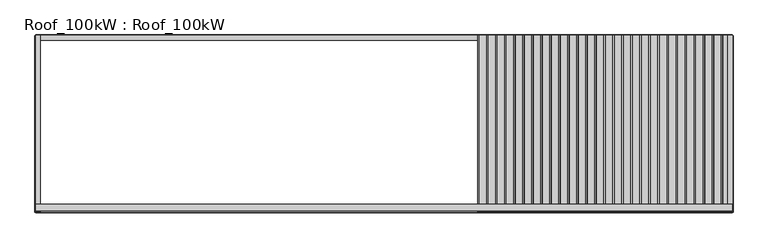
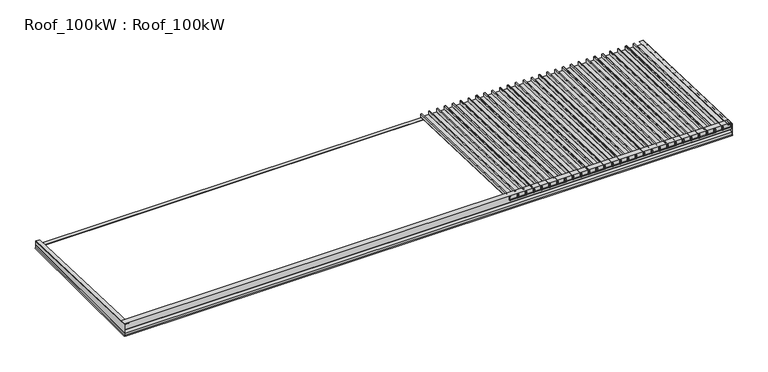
"""IFC4 building model written with IfcOpenShell, lengths in millimetres: beam geometry, Roof_100kW : Roof_100kW."""

from ifc_helpers import new_model, si_unit, frame, origin, place, context, project, spatial, polyline, outline, extrude, faceted_brep, source, transform, mapped, element, save


def roof_100kw_roof_100kw_d4473de0(model_context):
    return source(origin(), model_context, "Body", "SolidModel", [
        extrude(outline(polyline([(3464.5525967, 3397.5851728), (3464.5525967, 3395.3087926), (-14.9618868, 3516.8161158), (-14.9618868, 3517.79167), (3464.5525967, 3397.5851728)])), frame((-6859.75, 0.0, 0.0), z_axis=(1.0, 0.0, 0.0), x_axis=(0.0, 1.0, 0.0)), (0.0, 0.0, 1.0), 91.0),
        extrude(outline(polyline([(3464.5525967, 3397.5851728), (3464.5525967, 3395.3087926), (-14.9618868, 3516.8161158), (-14.9618868, 3517.79167), (3464.5525967, 3397.5851728)])), frame((6768.75, 0.0, 0.0), z_axis=(1.0, 0.0, 0.0), x_axis=(0.0, 1.0, 0.0)), (0.0, 0.0, 1.0), 91.0),
        extrude(outline(polyline([(3460.6079515, 3284.625316), (-23.1337581, 3282.8043375), (-14.9278607, 3517.7904945), (3464.5525967, 3397.5851728), (3460.6079515, 3284.625316)])), frame((-6859.75, 0.0, 0.0), z_axis=(1.0, 0.0, 0.0), x_axis=(0.0, 1.0, 0.0)), (0.0, 0.0, 1.0), 2.0),
        extrude(outline(polyline([(3460.6079515, 3284.625316), (-23.1337581, 3282.8043375), (-14.9278607, 3517.7904945), (3464.5525967, 3397.5851728), (3460.6079515, 3284.625316)])), frame((6857.75, 0.0, 0.0), z_axis=(1.0, 0.0, 0.0), x_axis=(0.0, 1.0, 0.0)), (0.0, 0.0, 1.0), 2.0),
        extrude(outline(polyline([(3236.0000001, -6871.0855383), (3260.999998, -6859.4255305), (3310.9999984, -6859.4255305), (3310.9999984, -6857.1867954), (3313.30614, -6857.1867954), (3313.30614, -6861.7975332), (3261.5259561, -6861.7975332), (3237.0026131, -6873.2352254), (3236.0000001, -6871.0855383)])), frame((0.0, -19.1564164, 0.0), z_axis=(0.0, 1.0, 0.0), x_axis=(0.0, 0.0, 1.0)), (0.0, 0.0, 1.0), 3474.9972752),
        extrude(outline(polyline([(3236.0000001, 6868.1128673), (3237.0026131, 6870.2625544), (3261.5259561, 6858.8248623), (3313.30614, 6858.8248623), (3313.30614, 6854.2141244), (3310.9999984, 6854.2141244), (3310.9999984, 6856.4528595), (3260.999998, 6856.4528595), (3236.0000001, 6868.1128673)])), frame((0.0, -19.1564164, 0.0), z_axis=(0.0, 1.0, 0.0), x_axis=(0.0, 0.0, 1.0)), (0.0, 0.0, 1.0), 3474.9972752),
        extrude(outline(polyline([(-30.8164164, 3236.0), (-32.9660812, 3237.0026014), (-21.5284164, 3261.525951), (-21.5284164, 3313.3621913), (69.2875959, 3313.3621913), (69.2875959, 3310.9999984), (-19.1564113, 3310.9999984), (-19.1564164, 3261.0), (-30.8164164, 3236.0)])), frame((-6856.0, 0.0, 0.0), z_axis=(1.0, 0.0, 0.0), x_axis=(0.0, 1.0, 0.0)), (0.0, 0.0, 1.0), 13712.0),
        extrude(outline(polyline([(3467.5008598, 3236.0), (3455.8408598, 3261.0), (3455.8408547, 3310.9999984), (3367.3968475, 3310.9999984), (3367.3968475, 3313.3621913), (3458.2128598, 3313.3621913), (3458.2128598, 3261.525951), (3469.6505246, 3237.0026014), (3467.5008598, 3236.0)])), frame((-6856.0, 0.0, 0.0), z_axis=(1.0, 0.0, 0.0), x_axis=(0.0, 1.0, 0.0)), (0.0, 0.0, 1.0), 13712.0),
        extrude(outline(polyline([(11.7511385, 3366.1429929), (11.7511385, 3519.2429929), (138.0741391, 3514.8316965), (138.0741391, 3513.5542884), (13.1502857, 3517.9167255), (13.1502857, 3366.1429929), (11.7511385, 3366.1429929)])), frame((-6856.0, 0.0, 0.0), z_axis=(1.0, 0.0, 0.0), x_axis=(0.0, 1.0, 0.0)), (0.0, 0.0, 1.0), 13712.0),
        faceted_brep([(6838.4239883, -12.227048, 3512.7230441), (6838.4239883, -12.227048, 3436.7693421), (6637.1239883, -12.227048, 3436.7693421), (6637.1239883, -12.227048, 3514.7218308), (6658.1239965, -12.227048, 3514.7218308), (6658.1239965, -12.227048, 3516.7206085), (6635.1239832, -12.227048, 3516.7206085), (6635.1239832, -12.227048, 3434.7705604), (6840.4239883, -12.227048, 3434.7705604), (6840.4239883, -12.227048, 3514.7218308), (6815.8239887, -12.227048, 3514.7218308), (6815.8239887, -12.227048, 3497.7321843), (6817.8239892, -12.227048, 3497.7321843), (6817.8239892, -12.227048, 3512.7230441), (6838.4239883, 3464.453761, 3391.3146758), (6817.8239892, 3464.453761, 3391.3146758), (6817.8239892, 3464.453761, 3376.3238198), (6815.8239887, 3464.453761, 3376.3238198), (6815.8239887, 3464.453761, 3393.3134574), (6840.4239935, 3464.453761, 3393.3134574), (6840.4239935, 3464.453761, 3313.3621913), (6635.1239883, 3464.453761, 3313.3621913), (6635.1239883, 3464.453761, 3395.312244), (6658.1239883, 3464.453761, 3395.312244), (6658.1239883, 3464.453761, 3393.3134574), (6637.1239883, 3464.453761, 3393.3134574), (6637.1239883, 3464.453761, 3315.3609776), (6838.4239883, 3464.453761, 3315.3609776)], [[[0, 1, 2, 3, 4, 5, 6, 7, 8, 9, 10, 11, 12, 13]], [[14, 15, 16, 17, 18, 19, 20, 21, 22, 23, 24, 25, 26, 27]], [[14, 27, 1, 0]], [[27, 26, 2, 1]], [[26, 25, 3, 2]], [[25, 24, 4, 3]], [[24, 23, 5, 4]], [[23, 22, 6, 5]], [[22, 21, 7, 6]], [[21, 20, 8, 7]], [[20, 19, 9, 8]], [[19, 18, 10, 9]], [[18, 17, 11, 10]], [[17, 16, 12, 11]], [[16, 15, 13, 12]], [[15, 14, 0, 13]]]),
        faceted_brep([(6660.8072253, -12.227048, 3512.7230441), (6660.8072253, -12.227048, 3436.7693421), (6459.5072253, -12.227048, 3436.7693421), (6459.5072253, -12.227048, 3514.7218308), (6480.5072335, -12.227048, 3514.7218308), (6480.5072335, -12.227048, 3516.7206085), (6457.5072202, -12.227048, 3516.7206085), (6457.5072202, -12.227048, 3434.7705604), (6662.8072253, -12.227048, 3434.7705604), (6662.8072253, -12.227048, 3514.7218308), (6638.2072257, -12.227048, 3514.7218308), (6638.2072257, -12.227048, 3497.7321843), (6640.2072262, -12.227048, 3497.7321843), (6640.2072262, -12.227048, 3512.7230441), (6660.8072253, 3464.453761, 3391.3146758), (6640.2072262, 3464.453761, 3391.3146758), (6640.2072262, 3464.453761, 3376.3238198), (6638.2072257, 3464.453761, 3376.3238198), (6638.2072257, 3464.453761, 3393.3134574), (6662.8072305, 3464.453761, 3393.3134574), (6662.8072305, 3464.453761, 3313.3621913), (6457.5072253, 3464.453761, 3313.3621913), (6457.5072253, 3464.453761, 3395.312244), (6480.5072253, 3464.453761, 3395.312244), (6480.5072253, 3464.453761, 3393.3134574), (6459.5072253, 3464.453761, 3393.3134574), (6459.5072253, 3464.453761, 3315.3609776), (6660.8072253, 3464.453761, 3315.3609776)], [[[0, 1, 2, 3, 4, 5, 6, 7, 8, 9, 10, 11, 12, 13]], [[14, 15, 16, 17, 18, 19, 20, 21, 22, 23, 24, 25, 26, 27]], [[14, 27, 1, 0]], [[27, 26, 2, 1]], [[26, 25, 3, 2]], [[25, 24, 4, 3]], [[24, 23, 5, 4]], [[23, 22, 6, 5]], [[22, 21, 7, 6]], [[21, 20, 8, 7]], [[20, 19, 9, 8]], [[19, 18, 10, 9]], [[18, 17, 11, 10]], [[17, 16, 12, 11]], [[16, 15, 13, 12]], [[15, 14, 0, 13]]]),
        faceted_brep([(6483.1904623, -12.227048, 3512.7230441), (6483.1904623, -12.227048, 3436.7693421), (6281.8904623, -12.227048, 3436.7693421), (6281.8904623, -12.227048, 3514.7218308), (6302.8904705, -12.227048, 3514.7218308), (6302.8904705, -12.227048, 3516.7206085), (6279.8904572, -12.227048, 3516.7206085), (6279.8904572, -12.227048, 3434.7705604), (6485.1904623, -12.227048, 3434.7705604), (6485.1904623, -12.227048, 3514.7218308), (6460.5904627, -12.227048, 3514.7218308), (6460.5904627, -12.227048, 3497.7321843), (6462.5904632, -12.227048, 3497.7321843), (6462.5904632, -12.227048, 3512.7230441), (6483.1904623, 3464.453761, 3391.3146758), (6462.5904632, 3464.453761, 3391.3146758), (6462.5904632, 3464.453761, 3376.3238198), (6460.5904627, 3464.453761, 3376.3238198), (6460.5904627, 3464.453761, 3393.3134574), (6485.1904675, 3464.453761, 3393.3134574), (6485.1904675, 3464.453761, 3313.3621913), (6279.8904623, 3464.453761, 3313.3621913), (6279.8904623, 3464.453761, 3395.312244), (6302.8904623, 3464.453761, 3395.312244), (6302.8904623, 3464.453761, 3393.3134574), (6281.8904623, 3464.453761, 3393.3134574), (6281.8904623, 3464.453761, 3315.3609776), (6483.1904623, 3464.453761, 3315.3609776)], [[[0, 1, 2, 3, 4, 5, 6, 7, 8, 9, 10, 11, 12, 13]], [[14, 15, 16, 17, 18, 19, 20, 21, 22, 23, 24, 25, 26, 27]], [[14, 27, 1, 0]], [[27, 26, 2, 1]], [[26, 25, 3, 2]], [[25, 24, 4, 3]], [[24, 23, 5, 4]], [[23, 22, 6, 5]], [[22, 21, 7, 6]], [[21, 20, 8, 7]], [[20, 19, 9, 8]], [[19, 18, 10, 9]], [[18, 17, 11, 10]], [[17, 16, 12, 11]], [[16, 15, 13, 12]], [[15, 14, 0, 13]]]),
        faceted_brep([(6305.5736993, -12.227048, 3512.7230441), (6305.5736993, -12.227048, 3436.7693421), (6104.2736993, -12.227048, 3436.7693421), (6104.2736993, -12.227048, 3514.7218308), (6125.2737075, -12.227048, 3514.7218308), (6125.2737075, -12.227048, 3516.7206085), (6102.2736942, -12.227048, 3516.7206085), (6102.2736942, -12.227048, 3434.7705604), (6307.5736993, -12.227048, 3434.7705604), (6307.5736993, -12.227048, 3514.7218308), (6282.9736997, -12.227048, 3514.7218308), (6282.9736997, -12.227048, 3497.7321843), (6284.9737002, -12.227048, 3497.7321843), (6284.9737002, -12.227048, 3512.7230441), (6305.5736993, 3464.453761, 3391.3146758), (6284.9737002, 3464.453761, 3391.3146758), (6284.9737002, 3464.453761, 3376.3238198), (6282.9736997, 3464.453761, 3376.3238198), (6282.9736997, 3464.453761, 3393.3134574), (6307.5737045, 3464.453761, 3393.3134574), (6307.5737045, 3464.453761, 3313.3621913), (6102.2736993, 3464.453761, 3313.3621913), (6102.2736993, 3464.453761, 3395.312244), (6125.2736993, 3464.453761, 3395.312244), (6125.2736993, 3464.453761, 3393.3134574), (6104.2736993, 3464.453761, 3393.3134574), (6104.2736993, 3464.453761, 3315.3609776), (6305.5736993, 3464.453761, 3315.3609776)], [[[0, 1, 2, 3, 4, 5, 6, 7, 8, 9, 10, 11, 12, 13]], [[14, 15, 16, 17, 18, 19, 20, 21, 22, 23, 24, 25, 26, 27]], [[14, 27, 1, 0]], [[27, 26, 2, 1]], [[26, 25, 3, 2]], [[25, 24, 4, 3]], [[24, 23, 5, 4]], [[23, 22, 6, 5]], [[22, 21, 7, 6]], [[21, 20, 8, 7]], [[20, 19, 9, 8]], [[19, 18, 10, 9]], [[18, 17, 11, 10]], [[17, 16, 12, 11]], [[16, 15, 13, 12]], [[15, 14, 0, 13]]]),
        faceted_brep([(6127.9569363, -12.227048, 3512.7230441), (6127.9569363, -12.227048, 3436.7693421), (5926.6569363, -12.227048, 3436.7693421), (5926.6569363, -12.227048, 3514.7218308), (5947.6569445, -12.227048, 3514.7218308), (5947.6569445, -12.227048, 3516.7206085), (5924.6569312, -12.227048, 3516.7206085), (5924.6569312, -12.227048, 3434.7705604), (6129.9569363, -12.227048, 3434.7705604), (6129.9569363, -12.227048, 3514.7218308), (6105.3569367, -12.227048, 3514.7218308), (6105.3569367, -12.227048, 3497.7321843), (6107.3569372, -12.227048, 3497.7321843), (6107.3569372, -12.227048, 3512.7230441), (6127.9569363, 3464.453761, 3391.3146758), (6107.3569372, 3464.453761, 3391.3146758), (6107.3569372, 3464.453761, 3376.3238198), (6105.3569367, 3464.453761, 3376.3238198), (6105.3569367, 3464.453761, 3393.3134574), (6129.9569415, 3464.453761, 3393.3134574), (6129.9569415, 3464.453761, 3313.3621913), (5924.6569363, 3464.453761, 3313.3621913), (5924.6569363, 3464.453761, 3395.312244), (5947.6569363, 3464.453761, 3395.312244), (5947.6569363, 3464.453761, 3393.3134574), (5926.6569363, 3464.453761, 3393.3134574), (5926.6569363, 3464.453761, 3315.3609776), (6127.9569363, 3464.453761, 3315.3609776)], [[[0, 1, 2, 3, 4, 5, 6, 7, 8, 9, 10, 11, 12, 13]], [[14, 15, 16, 17, 18, 19, 20, 21, 22, 23, 24, 25, 26, 27]], [[14, 27, 1, 0]], [[27, 26, 2, 1]], [[26, 25, 3, 2]], [[25, 24, 4, 3]], [[24, 23, 5, 4]], [[23, 22, 6, 5]], [[22, 21, 7, 6]], [[21, 20, 8, 7]], [[20, 19, 9, 8]], [[19, 18, 10, 9]], [[18, 17, 11, 10]], [[17, 16, 12, 11]], [[16, 15, 13, 12]], [[15, 14, 0, 13]]]),
        faceted_brep([(5950.3401733, -12.227048, 3512.7230441), (5950.3401733, -12.227048, 3436.7693421), (5749.0401733, -12.227048, 3436.7693421), (5749.0401733, -12.227048, 3514.7218308), (5770.0401815, -12.227048, 3514.7218308), (5770.0401815, -12.227048, 3516.7206085), (5747.0401682, -12.227048, 3516.7206085), (5747.0401682, -12.227048, 3434.7705604), (5952.3401733, -12.227048, 3434.7705604), (5952.3401733, -12.227048, 3514.7218308), (5927.7401736, -12.227048, 3514.7218308), (5927.7401736, -12.227048, 3497.7321843), (5929.7401742, -12.227048, 3497.7321843), (5929.7401742, -12.227048, 3512.7230441), (5950.3401733, 3464.453761, 3391.3146758), (5929.7401742, 3464.453761, 3391.3146758), (5929.7401742, 3464.453761, 3376.3238198), (5927.7401736, 3464.453761, 3376.3238198), (5927.7401736, 3464.453761, 3393.3134574), (5952.3401785, 3464.453761, 3393.3134574), (5952.3401785, 3464.453761, 3313.3621913), (5747.0401733, 3464.453761, 3313.3621913), (5747.0401733, 3464.453761, 3395.312244), (5770.0401733, 3464.453761, 3395.312244), (5770.0401733, 3464.453761, 3393.3134574), (5749.0401733, 3464.453761, 3393.3134574), (5749.0401733, 3464.453761, 3315.3609776), (5950.3401733, 3464.453761, 3315.3609776)], [[[0, 1, 2, 3, 4, 5, 6, 7, 8, 9, 10, 11, 12, 13]], [[14, 15, 16, 17, 18, 19, 20, 21, 22, 23, 24, 25, 26, 27]], [[14, 27, 1, 0]], [[27, 26, 2, 1]], [[26, 25, 3, 2]], [[25, 24, 4, 3]], [[24, 23, 5, 4]], [[23, 22, 6, 5]], [[22, 21, 7, 6]], [[21, 20, 8, 7]], [[20, 19, 9, 8]], [[19, 18, 10, 9]], [[18, 17, 11, 10]], [[17, 16, 12, 11]], [[16, 15, 13, 12]], [[15, 14, 0, 13]]]),
        faceted_brep([(5772.7234103, -12.227048, 3512.7230441), (5772.7234103, -12.227048, 3436.7693421), (5571.4234103, -12.227048, 3436.7693421), (5571.4234103, -12.227048, 3514.7218308), (5592.4234185, -12.227048, 3514.7218308), (5592.4234185, -12.227048, 3516.7206085), (5569.4234052, -12.227048, 3516.7206085), (5569.4234052, -12.227048, 3434.7705604), (5774.7234103, -12.227048, 3434.7705604), (5774.7234103, -12.227048, 3514.7218308), (5750.1234106, -12.227048, 3514.7218308), (5750.1234106, -12.227048, 3497.7321843), (5752.1234112, -12.227048, 3497.7321843), (5752.1234112, -12.227048, 3512.7230441), (5772.7234103, 3464.453761, 3391.3146758), (5752.1234112, 3464.453761, 3391.3146758), (5752.1234112, 3464.453761, 3376.3238198), (5750.1234106, 3464.453761, 3376.3238198), (5750.1234106, 3464.453761, 3393.3134574), (5774.7234155, 3464.453761, 3393.3134574), (5774.7234155, 3464.453761, 3313.3621913), (5569.4234103, 3464.453761, 3313.3621913), (5569.4234103, 3464.453761, 3395.312244), (5592.4234103, 3464.453761, 3395.312244), (5592.4234103, 3464.453761, 3393.3134574), (5571.4234103, 3464.453761, 3393.3134574), (5571.4234103, 3464.453761, 3315.3609776), (5772.7234103, 3464.453761, 3315.3609776)], [[[0, 1, 2, 3, 4, 5, 6, 7, 8, 9, 10, 11, 12, 13]], [[14, 15, 16, 17, 18, 19, 20, 21, 22, 23, 24, 25, 26, 27]], [[14, 27, 1, 0]], [[27, 26, 2, 1]], [[26, 25, 3, 2]], [[25, 24, 4, 3]], [[24, 23, 5, 4]], [[23, 22, 6, 5]], [[22, 21, 7, 6]], [[21, 20, 8, 7]], [[20, 19, 9, 8]], [[19, 18, 10, 9]], [[18, 17, 11, 10]], [[17, 16, 12, 11]], [[16, 15, 13, 12]], [[15, 14, 0, 13]]]),
        faceted_brep([(5595.1066473, -12.227048, 3512.7230441), (5595.1066473, -12.227048, 3436.7693421), (5393.8066473, -12.227048, 3436.7693421), (5393.8066473, -12.227048, 3514.7218308), (5414.8066555, -12.227048, 3514.7218308), (5414.8066555, -12.227048, 3516.7206085), (5391.8066422, -12.227048, 3516.7206085), (5391.8066422, -12.227048, 3434.7705604), (5597.1066473, -12.227048, 3434.7705604), (5597.1066473, -12.227048, 3514.7218308), (5572.5066476, -12.227048, 3514.7218308), (5572.5066476, -12.227048, 3497.7321843), (5574.5066482, -12.227048, 3497.7321843), (5574.5066482, -12.227048, 3512.7230441), (5595.1066473, 3464.453761, 3391.3146758), (5574.5066482, 3464.453761, 3391.3146758), (5574.5066482, 3464.453761, 3376.3238198), (5572.5066476, 3464.453761, 3376.3238198), (5572.5066476, 3464.453761, 3393.3134574), (5597.1066525, 3464.453761, 3393.3134574), (5597.1066525, 3464.453761, 3313.3621913), (5391.8066473, 3464.453761, 3313.3621913), (5391.8066473, 3464.453761, 3395.312244), (5414.8066473, 3464.453761, 3395.312244), (5414.8066473, 3464.453761, 3393.3134574), (5393.8066473, 3464.453761, 3393.3134574), (5393.8066473, 3464.453761, 3315.3609776), (5595.1066473, 3464.453761, 3315.3609776)], [[[0, 1, 2, 3, 4, 5, 6, 7, 8, 9, 10, 11, 12, 13]], [[14, 15, 16, 17, 18, 19, 20, 21, 22, 23, 24, 25, 26, 27]], [[14, 27, 1, 0]], [[27, 26, 2, 1]], [[26, 25, 3, 2]], [[25, 24, 4, 3]], [[24, 23, 5, 4]], [[23, 22, 6, 5]], [[22, 21, 7, 6]], [[21, 20, 8, 7]], [[20, 19, 9, 8]], [[19, 18, 10, 9]], [[18, 17, 11, 10]], [[17, 16, 12, 11]], [[16, 15, 13, 12]], [[15, 14, 0, 13]]]),
        faceted_brep([(5417.4898843, -12.227048, 3512.7230441), (5417.4898843, -12.227048, 3436.7693421), (5216.1898843, -12.227048, 3436.7693421), (5216.1898843, -12.227048, 3514.7218308), (5237.1898925, -12.227048, 3514.7218308), (5237.1898925, -12.227048, 3516.7206085), (5214.1898792, -12.227048, 3516.7206085), (5214.1898792, -12.227048, 3434.7705604), (5419.4898843, -12.227048, 3434.7705604), (5419.4898843, -12.227048, 3514.7218308), (5394.8898846, -12.227048, 3514.7218308), (5394.8898846, -12.227048, 3497.7321843), (5396.8898852, -12.227048, 3497.7321843), (5396.8898852, -12.227048, 3512.7230441), (5417.4898843, 3464.453761, 3391.3146758), (5396.8898852, 3464.453761, 3391.3146758), (5396.8898852, 3464.453761, 3376.3238198), (5394.8898846, 3464.453761, 3376.3238198), (5394.8898846, 3464.453761, 3393.3134574), (5419.4898895, 3464.453761, 3393.3134574), (5419.4898895, 3464.453761, 3313.3621913), (5214.1898843, 3464.453761, 3313.3621913), (5214.1898843, 3464.453761, 3395.312244), (5237.1898843, 3464.453761, 3395.312244), (5237.1898843, 3464.453761, 3393.3134574), (5216.1898843, 3464.453761, 3393.3134574), (5216.1898843, 3464.453761, 3315.3609776), (5417.4898843, 3464.453761, 3315.3609776)], [[[0, 1, 2, 3, 4, 5, 6, 7, 8, 9, 10, 11, 12, 13]], [[14, 15, 16, 17, 18, 19, 20, 21, 22, 23, 24, 25, 26, 27]], [[14, 27, 1, 0]], [[27, 26, 2, 1]], [[26, 25, 3, 2]], [[25, 24, 4, 3]], [[24, 23, 5, 4]], [[23, 22, 6, 5]], [[22, 21, 7, 6]], [[21, 20, 8, 7]], [[20, 19, 9, 8]], [[19, 18, 10, 9]], [[18, 17, 11, 10]], [[17, 16, 12, 11]], [[16, 15, 13, 12]], [[15, 14, 0, 13]]]),
        faceted_brep([(5239.8731213, -12.227048, 3512.7230441), (5239.8731213, -12.227048, 3436.7693421), (5038.5731213, -12.227048, 3436.7693421), (5038.5731213, -12.227048, 3514.7218308), (5059.5731295, -12.227048, 3514.7218308), (5059.5731295, -12.227048, 3516.7206085), (5036.5731162, -12.227048, 3516.7206085), (5036.5731162, -12.227048, 3434.7705604), (5241.8731213, -12.227048, 3434.7705604), (5241.8731213, -12.227048, 3514.7218308), (5217.2731216, -12.227048, 3514.7218308), (5217.2731216, -12.227048, 3497.7321843), (5219.2731222, -12.227048, 3497.7321843), (5219.2731222, -12.227048, 3512.7230441), (5239.8731213, 3464.453761, 3391.3146758), (5219.2731222, 3464.453761, 3391.3146758), (5219.2731222, 3464.453761, 3376.3238198), (5217.2731216, 3464.453761, 3376.3238198), (5217.2731216, 3464.453761, 3393.3134574), (5241.8731265, 3464.453761, 3393.3134574), (5241.8731265, 3464.453761, 3313.3621913), (5036.5731213, 3464.453761, 3313.3621913), (5036.5731213, 3464.453761, 3395.312244), (5059.5731213, 3464.453761, 3395.312244), (5059.5731213, 3464.453761, 3393.3134574), (5038.5731213, 3464.453761, 3393.3134574), (5038.5731213, 3464.453761, 3315.3609776), (5239.8731213, 3464.453761, 3315.3609776)], [[[0, 1, 2, 3, 4, 5, 6, 7, 8, 9, 10, 11, 12, 13]], [[14, 15, 16, 17, 18, 19, 20, 21, 22, 23, 24, 25, 26, 27]], [[14, 27, 1, 0]], [[27, 26, 2, 1]], [[26, 25, 3, 2]], [[25, 24, 4, 3]], [[24, 23, 5, 4]], [[23, 22, 6, 5]], [[22, 21, 7, 6]], [[21, 20, 8, 7]], [[20, 19, 9, 8]], [[19, 18, 10, 9]], [[18, 17, 11, 10]], [[17, 16, 12, 11]], [[16, 15, 13, 12]], [[15, 14, 0, 13]]]),
        faceted_brep([(5062.2563583, -12.227048, 3512.7230441), (5062.2563583, -12.227048, 3436.7693421), (4860.9563583, -12.227048, 3436.7693421), (4860.9563583, -12.227048, 3514.7218308), (4881.9563665, -12.227048, 3514.7218308), (4881.9563665, -12.227048, 3516.7206085), (4858.9563532, -12.227048, 3516.7206085), (4858.9563532, -12.227048, 3434.7705604), (5064.2563583, -12.227048, 3434.7705604), (5064.2563583, -12.227048, 3514.7218308), (5039.6563586, -12.227048, 3514.7218308), (5039.6563586, -12.227048, 3497.7321843), (5041.6563592, -12.227048, 3497.7321843), (5041.6563592, -12.227048, 3512.7230441), (5062.2563583, 3464.453761, 3391.3146758), (5041.6563592, 3464.453761, 3391.3146758), (5041.6563592, 3464.453761, 3376.3238198), (5039.6563586, 3464.453761, 3376.3238198), (5039.6563586, 3464.453761, 3393.3134574), (5064.2563635, 3464.453761, 3393.3134574), (5064.2563635, 3464.453761, 3313.3621913), (4858.9563583, 3464.453761, 3313.3621913), (4858.9563583, 3464.453761, 3395.312244), (4881.9563583, 3464.453761, 3395.312244), (4881.9563583, 3464.453761, 3393.3134574), (4860.9563583, 3464.453761, 3393.3134574), (4860.9563583, 3464.453761, 3315.3609776), (5062.2563583, 3464.453761, 3315.3609776)], [[[0, 1, 2, 3, 4, 5, 6, 7, 8, 9, 10, 11, 12, 13]], [[14, 15, 16, 17, 18, 19, 20, 21, 22, 23, 24, 25, 26, 27]], [[14, 27, 1, 0]], [[27, 26, 2, 1]], [[26, 25, 3, 2]], [[25, 24, 4, 3]], [[24, 23, 5, 4]], [[23, 22, 6, 5]], [[22, 21, 7, 6]], [[21, 20, 8, 7]], [[20, 19, 9, 8]], [[19, 18, 10, 9]], [[18, 17, 11, 10]], [[17, 16, 12, 11]], [[16, 15, 13, 12]], [[15, 14, 0, 13]]]),
        faceted_brep([(4884.6395953, -12.227048, 3512.7230441), (4884.6395953, -12.227048, 3436.7693421), (4683.3395953, -12.227048, 3436.7693421), (4683.3395953, -12.227048, 3514.7218308), (4704.3396035, -12.227048, 3514.7218308), (4704.3396035, -12.227048, 3516.7206085), (4681.3395902, -12.227048, 3516.7206085), (4681.3395902, -12.227048, 3434.7705604), (4886.6395953, -12.227048, 3434.7705604), (4886.6395953, -12.227048, 3514.7218308), (4862.0395956, -12.227048, 3514.7218308), (4862.0395956, -12.227048, 3497.7321843), (4864.0395962, -12.227048, 3497.7321843), (4864.0395962, -12.227048, 3512.7230441), (4884.6395953, 3464.453761, 3391.3146758), (4864.0395962, 3464.453761, 3391.3146758), (4864.0395962, 3464.453761, 3376.3238198), (4862.0395956, 3464.453761, 3376.3238198), (4862.0395956, 3464.453761, 3393.3134574), (4886.6396005, 3464.453761, 3393.3134574), (4886.6396005, 3464.453761, 3313.3621913), (4681.3395953, 3464.453761, 3313.3621913), (4681.3395953, 3464.453761, 3395.312244), (4704.3395953, 3464.453761, 3395.312244), (4704.3395953, 3464.453761, 3393.3134574), (4683.3395953, 3464.453761, 3393.3134574), (4683.3395953, 3464.453761, 3315.3609776), (4884.6395953, 3464.453761, 3315.3609776)], [[[0, 1, 2, 3, 4, 5, 6, 7, 8, 9, 10, 11, 12, 13]], [[14, 15, 16, 17, 18, 19, 20, 21, 22, 23, 24, 25, 26, 27]], [[14, 27, 1, 0]], [[27, 26, 2, 1]], [[26, 25, 3, 2]], [[25, 24, 4, 3]], [[24, 23, 5, 4]], [[23, 22, 6, 5]], [[22, 21, 7, 6]], [[21, 20, 8, 7]], [[20, 19, 9, 8]], [[19, 18, 10, 9]], [[18, 17, 11, 10]], [[17, 16, 12, 11]], [[16, 15, 13, 12]], [[15, 14, 0, 13]]]),
        faceted_brep([(4707.0228323, -12.227048, 3512.7230441), (4707.0228323, -12.227048, 3436.7693421), (4505.7228323, -12.227048, 3436.7693421), (4505.7228323, -12.227048, 3514.7218308), (4526.7228404, -12.227048, 3514.7218308), (4526.7228404, -12.227048, 3516.7206085), (4503.7228272, -12.227048, 3516.7206085), (4503.7228272, -12.227048, 3434.7705604), (4709.0228322, -12.227048, 3434.7705604), (4709.0228322, -12.227048, 3514.7218308), (4684.4228326, -12.227048, 3514.7218308), (4684.4228326, -12.227048, 3497.7321843), (4686.4228332, -12.227048, 3497.7321843), (4686.4228332, -12.227048, 3512.7230441), (4707.0228322, 3464.453761, 3391.3146758), (4686.4228332, 3464.453761, 3391.3146758), (4686.4228332, 3464.453761, 3376.3238198), (4684.4228326, 3464.453761, 3376.3238198), (4684.4228326, 3464.453761, 3393.3134574), (4709.0228375, 3464.453761, 3393.3134574), (4709.0228375, 3464.453761, 3313.3621913), (4503.7228322, 3464.453761, 3313.3621913), (4503.7228322, 3464.453761, 3395.312244), (4526.7228322, 3464.453761, 3395.312244), (4526.7228322, 3464.453761, 3393.3134574), (4505.7228322, 3464.453761, 3393.3134574), (4505.7228322, 3464.453761, 3315.3609776), (4707.0228322, 3464.453761, 3315.3609776)], [[[0, 1, 2, 3, 4, 5, 6, 7, 8, 9, 10, 11, 12, 13]], [[14, 15, 16, 17, 18, 19, 20, 21, 22, 23, 24, 25, 26, 27]], [[14, 27, 1, 0]], [[27, 26, 2, 1]], [[26, 25, 3, 2]], [[25, 24, 4, 3]], [[24, 23, 5, 4]], [[23, 22, 6, 5]], [[22, 21, 7, 6]], [[21, 20, 8, 7]], [[20, 19, 9, 8]], [[19, 18, 10, 9]], [[18, 17, 11, 10]], [[17, 16, 12, 11]], [[16, 15, 13, 12]], [[15, 14, 0, 13]]]),
        faceted_brep([(4529.4060692, -12.227048, 3512.7230441), (4529.4060692, -12.227048, 3436.7693421), (4328.1060693, -12.227048, 3436.7693421), (4328.1060693, -12.227048, 3514.7218308), (4349.1060774, -12.227048, 3514.7218308), (4349.1060774, -12.227048, 3516.7206085), (4326.1060642, -12.227048, 3516.7206085), (4326.1060642, -12.227048, 3434.7705604), (4531.4060692, -12.227048, 3434.7705604), (4531.4060692, -12.227048, 3514.7218308), (4506.8060696, -12.227048, 3514.7218308), (4506.8060696, -12.227048, 3497.7321843), (4508.8060702, -12.227048, 3497.7321843), (4508.8060702, -12.227048, 3512.7230441), (4529.4060692, 3464.453761, 3391.3146758), (4508.8060702, 3464.453761, 3391.3146758), (4508.8060702, 3464.453761, 3376.3238198), (4506.8060696, 3464.453761, 3376.3238198), (4506.8060696, 3464.453761, 3393.3134574), (4531.4060745, 3464.453761, 3393.3134574), (4531.4060745, 3464.453761, 3313.3621913), (4326.1060692, 3464.453761, 3313.3621913), (4326.1060692, 3464.453761, 3395.312244), (4349.1060692, 3464.453761, 3395.312244), (4349.1060692, 3464.453761, 3393.3134574), (4328.1060692, 3464.453761, 3393.3134574), (4328.1060692, 3464.453761, 3315.3609776), (4529.4060692, 3464.453761, 3315.3609776)], [[[0, 1, 2, 3, 4, 5, 6, 7, 8, 9, 10, 11, 12, 13]], [[14, 15, 16, 17, 18, 19, 20, 21, 22, 23, 24, 25, 26, 27]], [[14, 27, 1, 0]], [[27, 26, 2, 1]], [[26, 25, 3, 2]], [[25, 24, 4, 3]], [[24, 23, 5, 4]], [[23, 22, 6, 5]], [[22, 21, 7, 6]], [[21, 20, 8, 7]], [[20, 19, 9, 8]], [[19, 18, 10, 9]], [[18, 17, 11, 10]], [[17, 16, 12, 11]], [[16, 15, 13, 12]], [[15, 14, 0, 13]]]),
        faceted_brep([(4351.7893062, -12.227048, 3512.7230441), (4351.7893062, -12.227048, 3436.7693421), (4150.4893063, -12.227048, 3436.7693421), (4150.4893063, -12.227048, 3514.7218308), (4171.4893144, -12.227048, 3514.7218308), (4171.4893144, -12.227048, 3516.7206085), (4148.4893012, -12.227048, 3516.7206085), (4148.4893012, -12.227048, 3434.7705604), (4353.7893062, -12.227048, 3434.7705604), (4353.7893062, -12.227048, 3514.7218308), (4329.1893066, -12.227048, 3514.7218308), (4329.1893066, -12.227048, 3497.7321843), (4331.1893072, -12.227048, 3497.7321843), (4331.1893072, -12.227048, 3512.7230441), (4351.7893062, 3464.453761, 3391.3146758), (4331.1893072, 3464.453761, 3391.3146758), (4331.1893072, 3464.453761, 3376.3238198), (4329.1893066, 3464.453761, 3376.3238198), (4329.1893066, 3464.453761, 3393.3134574), (4353.7893115, 3464.453761, 3393.3134574), (4353.7893115, 3464.453761, 3313.3621913), (4148.4893062, 3464.453761, 3313.3621913), (4148.4893062, 3464.453761, 3395.312244), (4171.4893062, 3464.453761, 3395.312244), (4171.4893062, 3464.453761, 3393.3134574), (4150.4893062, 3464.453761, 3393.3134574), (4150.4893062, 3464.453761, 3315.3609776), (4351.7893062, 3464.453761, 3315.3609776)], [[[0, 1, 2, 3, 4, 5, 6, 7, 8, 9, 10, 11, 12, 13]], [[14, 15, 16, 17, 18, 19, 20, 21, 22, 23, 24, 25, 26, 27]], [[14, 27, 1, 0]], [[27, 26, 2, 1]], [[26, 25, 3, 2]], [[25, 24, 4, 3]], [[24, 23, 5, 4]], [[23, 22, 6, 5]], [[22, 21, 7, 6]], [[21, 20, 8, 7]], [[20, 19, 9, 8]], [[19, 18, 10, 9]], [[18, 17, 11, 10]], [[17, 16, 12, 11]], [[16, 15, 13, 12]], [[15, 14, 0, 13]]]),
        faceted_brep([(4174.1725432, -12.227048, 3512.7230441), (4174.1725432, -12.227048, 3436.7693421), (3972.8725433, -12.227048, 3436.7693421), (3972.8725433, -12.227048, 3514.7218308), (3993.8725514, -12.227048, 3514.7218308), (3993.8725514, -12.227048, 3516.7206085), (3970.8725382, -12.227048, 3516.7206085), (3970.8725382, -12.227048, 3434.7705604), (4176.1725432, -12.227048, 3434.7705604), (4176.1725432, -12.227048, 3514.7218308), (4151.5725436, -12.227048, 3514.7218308), (4151.5725436, -12.227048, 3497.7321843), (4153.5725442, -12.227048, 3497.7321843), (4153.5725442, -12.227048, 3512.7230441), (4174.1725432, 3464.453761, 3391.3146758), (4153.5725442, 3464.453761, 3391.3146758), (4153.5725442, 3464.453761, 3376.3238198), (4151.5725436, 3464.453761, 3376.3238198), (4151.5725436, 3464.453761, 3393.3134574), (4176.1725485, 3464.453761, 3393.3134574), (4176.1725485, 3464.453761, 3313.3621913), (3970.8725432, 3464.453761, 3313.3621913), (3970.8725432, 3464.453761, 3395.312244), (3993.8725432, 3464.453761, 3395.312244), (3993.8725432, 3464.453761, 3393.3134574), (3972.8725432, 3464.453761, 3393.3134574), (3972.8725432, 3464.453761, 3315.3609776), (4174.1725432, 3464.453761, 3315.3609776)], [[[0, 1, 2, 3, 4, 5, 6, 7, 8, 9, 10, 11, 12, 13]], [[14, 15, 16, 17, 18, 19, 20, 21, 22, 23, 24, 25, 26, 27]], [[14, 27, 1, 0]], [[27, 26, 2, 1]], [[26, 25, 3, 2]], [[25, 24, 4, 3]], [[24, 23, 5, 4]], [[23, 22, 6, 5]], [[22, 21, 7, 6]], [[21, 20, 8, 7]], [[20, 19, 9, 8]], [[19, 18, 10, 9]], [[18, 17, 11, 10]], [[17, 16, 12, 11]], [[16, 15, 13, 12]], [[15, 14, 0, 13]]]),
        faceted_brep([(3996.5557802, -12.227048, 3512.7230441), (3996.5557802, -12.227048, 3436.7693421), (3795.2557803, -12.227048, 3436.7693421), (3795.2557803, -12.227048, 3514.7218308), (3816.2557884, -12.227048, 3514.7218308), (3816.2557884, -12.227048, 3516.7206085), (3793.2557752, -12.227048, 3516.7206085), (3793.2557752, -12.227048, 3434.7705604), (3998.5557802, -12.227048, 3434.7705604), (3998.5557802, -12.227048, 3514.7218308), (3973.9557806, -12.227048, 3514.7218308), (3973.9557806, -12.227048, 3497.7321843), (3975.9557812, -12.227048, 3497.7321843), (3975.9557812, -12.227048, 3512.7230441), (3996.5557802, 3464.453761, 3391.3146758), (3975.9557812, 3464.453761, 3391.3146758), (3975.9557812, 3464.453761, 3376.3238198), (3973.9557806, 3464.453761, 3376.3238198), (3973.9557806, 3464.453761, 3393.3134574), (3998.5557855, 3464.453761, 3393.3134574), (3998.5557855, 3464.453761, 3313.3621913), (3793.2557802, 3464.453761, 3313.3621913), (3793.2557802, 3464.453761, 3395.312244), (3816.2557802, 3464.453761, 3395.312244), (3816.2557802, 3464.453761, 3393.3134574), (3795.2557802, 3464.453761, 3393.3134574), (3795.2557802, 3464.453761, 3315.3609776), (3996.5557802, 3464.453761, 3315.3609776)], [[[0, 1, 2, 3, 4, 5, 6, 7, 8, 9, 10, 11, 12, 13]], [[14, 15, 16, 17, 18, 19, 20, 21, 22, 23, 24, 25, 26, 27]], [[14, 27, 1, 0]], [[27, 26, 2, 1]], [[26, 25, 3, 2]], [[25, 24, 4, 3]], [[24, 23, 5, 4]], [[23, 22, 6, 5]], [[22, 21, 7, 6]], [[21, 20, 8, 7]], [[20, 19, 9, 8]], [[19, 18, 10, 9]], [[18, 17, 11, 10]], [[17, 16, 12, 11]], [[16, 15, 13, 12]], [[15, 14, 0, 13]]]),
        faceted_brep([(3818.9390172, -12.227048, 3512.7230441), (3818.9390172, -12.227048, 3436.7693421), (3617.6390173, -12.227048, 3436.7693421), (3617.6390173, -12.227048, 3514.7218308), (3638.6390254, -12.227048, 3514.7218308), (3638.6390254, -12.227048, 3516.7206085), (3615.6390122, -12.227048, 3516.7206085), (3615.6390122, -12.227048, 3434.7705604), (3820.9390172, -12.227048, 3434.7705604), (3820.9390172, -12.227048, 3514.7218308), (3796.3390176, -12.227048, 3514.7218308), (3796.3390176, -12.227048, 3497.7321843), (3798.3390182, -12.227048, 3497.7321843), (3798.3390182, -12.227048, 3512.7230441), (3818.9390172, 3464.453761, 3391.3146758), (3798.3390182, 3464.453761, 3391.3146758), (3798.3390182, 3464.453761, 3376.3238198), (3796.3390176, 3464.453761, 3376.3238198), (3796.3390176, 3464.453761, 3393.3134574), (3820.9390225, 3464.453761, 3393.3134574), (3820.9390225, 3464.453761, 3313.3621913), (3615.6390172, 3464.453761, 3313.3621913), (3615.6390172, 3464.453761, 3395.312244), (3638.6390172, 3464.453761, 3395.312244), (3638.6390172, 3464.453761, 3393.3134574), (3617.6390172, 3464.453761, 3393.3134574), (3617.6390172, 3464.453761, 3315.3609776), (3818.9390172, 3464.453761, 3315.3609776)], [[[0, 1, 2, 3, 4, 5, 6, 7, 8, 9, 10, 11, 12, 13]], [[14, 15, 16, 17, 18, 19, 20, 21, 22, 23, 24, 25, 26, 27]], [[14, 27, 1, 0]], [[27, 26, 2, 1]], [[26, 25, 3, 2]], [[25, 24, 4, 3]], [[24, 23, 5, 4]], [[23, 22, 6, 5]], [[22, 21, 7, 6]], [[21, 20, 8, 7]], [[20, 19, 9, 8]], [[19, 18, 10, 9]], [[18, 17, 11, 10]], [[17, 16, 12, 11]], [[16, 15, 13, 12]], [[15, 14, 0, 13]]]),
        faceted_brep([(3641.3222542, -12.227048, 3512.7230441), (3641.3222542, -12.227048, 3436.7693421), (3440.0222543, -12.227048, 3436.7693421), (3440.0222543, -12.227048, 3514.7218308), (3461.0222624, -12.227048, 3514.7218308), (3461.0222624, -12.227048, 3516.7206085), (3438.0222492, -12.227048, 3516.7206085), (3438.0222492, -12.227048, 3434.7705604), (3643.3222542, -12.227048, 3434.7705604), (3643.3222542, -12.227048, 3514.7218308), (3618.7222546, -12.227048, 3514.7218308), (3618.7222546, -12.227048, 3497.7321843), (3620.7222552, -12.227048, 3497.7321843), (3620.7222552, -12.227048, 3512.7230441), (3641.3222542, 3464.453761, 3391.3146758), (3620.7222552, 3464.453761, 3391.3146758), (3620.7222552, 3464.453761, 3376.3238198), (3618.7222546, 3464.453761, 3376.3238198), (3618.7222546, 3464.453761, 3393.3134574), (3643.3222595, 3464.453761, 3393.3134574), (3643.3222595, 3464.453761, 3313.3621913), (3438.0222542, 3464.453761, 3313.3621913), (3438.0222542, 3464.453761, 3395.312244), (3461.0222542, 3464.453761, 3395.312244), (3461.0222542, 3464.453761, 3393.3134574), (3440.0222542, 3464.453761, 3393.3134574), (3440.0222542, 3464.453761, 3315.3609776), (3641.3222542, 3464.453761, 3315.3609776)], [[[0, 1, 2, 3, 4, 5, 6, 7, 8, 9, 10, 11, 12, 13]], [[14, 15, 16, 17, 18, 19, 20, 21, 22, 23, 24, 25, 26, 27]], [[14, 27, 1, 0]], [[27, 26, 2, 1]], [[26, 25, 3, 2]], [[25, 24, 4, 3]], [[24, 23, 5, 4]], [[23, 22, 6, 5]], [[22, 21, 7, 6]], [[21, 20, 8, 7]], [[20, 19, 9, 8]], [[19, 18, 10, 9]], [[18, 17, 11, 10]], [[17, 16, 12, 11]], [[16, 15, 13, 12]], [[15, 14, 0, 13]]]),
        faceted_brep([(3463.7054912, -12.227048, 3512.7230441), (3463.7054912, -12.227048, 3436.7693421), (3262.4054913, -12.227048, 3436.7693421), (3262.4054913, -12.227048, 3514.7218308), (3283.4054994, -12.227048, 3514.7218308), (3283.4054994, -12.227048, 3516.7206085), (3260.4054862, -12.227048, 3516.7206085), (3260.4054862, -12.227048, 3434.7705604), (3465.7054912, -12.227048, 3434.7705604), (3465.7054912, -12.227048, 3514.7218308), (3441.1054916, -12.227048, 3514.7218308), (3441.1054916, -12.227048, 3497.7321843), (3443.1054922, -12.227048, 3497.7321843), (3443.1054922, -12.227048, 3512.7230441), (3463.7054912, 3464.453761, 3391.3146758), (3443.1054922, 3464.453761, 3391.3146758), (3443.1054922, 3464.453761, 3376.3238198), (3441.1054916, 3464.453761, 3376.3238198), (3441.1054916, 3464.453761, 3393.3134574), (3465.7054965, 3464.453761, 3393.3134574), (3465.7054965, 3464.453761, 3313.3621913), (3260.4054912, 3464.453761, 3313.3621913), (3260.4054912, 3464.453761, 3395.312244), (3283.4054912, 3464.453761, 3395.312244), (3283.4054912, 3464.453761, 3393.3134574), (3262.4054912, 3464.453761, 3393.3134574), (3262.4054912, 3464.453761, 3315.3609776), (3463.7054912, 3464.453761, 3315.3609776)], [[[0, 1, 2, 3, 4, 5, 6, 7, 8, 9, 10, 11, 12, 13]], [[14, 15, 16, 17, 18, 19, 20, 21, 22, 23, 24, 25, 26, 27]], [[14, 27, 1, 0]], [[27, 26, 2, 1]], [[26, 25, 3, 2]], [[25, 24, 4, 3]], [[24, 23, 5, 4]], [[23, 22, 6, 5]], [[22, 21, 7, 6]], [[21, 20, 8, 7]], [[20, 19, 9, 8]], [[19, 18, 10, 9]], [[18, 17, 11, 10]], [[17, 16, 12, 11]], [[16, 15, 13, 12]], [[15, 14, 0, 13]]]),
        faceted_brep([(3286.0887282, -12.227048, 3512.7230441), (3286.0887282, -12.227048, 3436.7693421), (3084.7887283, -12.227048, 3436.7693421), (3084.7887283, -12.227048, 3514.7218308), (3105.7887364, -12.227048, 3514.7218308), (3105.7887364, -12.227048, 3516.7206085), (3082.7887232, -12.227048, 3516.7206085), (3082.7887232, -12.227048, 3434.7705604), (3288.0887282, -12.227048, 3434.7705604), (3288.0887282, -12.227048, 3514.7218308), (3263.4887286, -12.227048, 3514.7218308), (3263.4887286, -12.227048, 3497.7321843), (3265.4887292, -12.227048, 3497.7321843), (3265.4887292, -12.227048, 3512.7230441), (3286.0887282, 3464.453761, 3391.3146758), (3265.4887292, 3464.453761, 3391.3146758), (3265.4887292, 3464.453761, 3376.3238198), (3263.4887286, 3464.453761, 3376.3238198), (3263.4887286, 3464.453761, 3393.3134574), (3288.0887335, 3464.453761, 3393.3134574), (3288.0887335, 3464.453761, 3313.3621913), (3082.7887282, 3464.453761, 3313.3621913), (3082.7887282, 3464.453761, 3395.312244), (3105.7887282, 3464.453761, 3395.312244), (3105.7887282, 3464.453761, 3393.3134574), (3084.7887282, 3464.453761, 3393.3134574), (3084.7887282, 3464.453761, 3315.3609776), (3286.0887282, 3464.453761, 3315.3609776)], [[[0, 1, 2, 3, 4, 5, 6, 7, 8, 9, 10, 11, 12, 13]], [[14, 15, 16, 17, 18, 19, 20, 21, 22, 23, 24, 25, 26, 27]], [[14, 27, 1, 0]], [[27, 26, 2, 1]], [[26, 25, 3, 2]], [[25, 24, 4, 3]], [[24, 23, 5, 4]], [[23, 22, 6, 5]], [[22, 21, 7, 6]], [[21, 20, 8, 7]], [[20, 19, 9, 8]], [[19, 18, 10, 9]], [[18, 17, 11, 10]], [[17, 16, 12, 11]], [[16, 15, 13, 12]], [[15, 14, 0, 13]]]),
        faceted_brep([(3108.4719652, -12.227048, 3512.7230441), (3108.4719652, -12.227048, 3436.7693421), (2907.1719653, -12.227048, 3436.7693421), (2907.1719653, -12.227048, 3514.7218308), (2928.1719734, -12.227048, 3514.7218308), (2928.1719734, -12.227048, 3516.7206085), (2905.1719602, -12.227048, 3516.7206085), (2905.1719602, -12.227048, 3434.7705604), (3110.4719652, -12.227048, 3434.7705604), (3110.4719652, -12.227048, 3514.7218308), (3085.8719656, -12.227048, 3514.7218308), (3085.8719656, -12.227048, 3497.7321843), (3087.8719661, -12.227048, 3497.7321843), (3087.8719661, -12.227048, 3512.7230441), (3108.4719652, 3464.453761, 3391.3146758), (3087.8719661, 3464.453761, 3391.3146758), (3087.8719661, 3464.453761, 3376.3238198), (3085.8719656, 3464.453761, 3376.3238198), (3085.8719656, 3464.453761, 3393.3134574), (3110.4719705, 3464.453761, 3393.3134574), (3110.4719705, 3464.453761, 3313.3621913), (2905.1719652, 3464.453761, 3313.3621913), (2905.1719652, 3464.453761, 3395.312244), (2928.1719652, 3464.453761, 3395.312244), (2928.1719652, 3464.453761, 3393.3134574), (2907.1719652, 3464.453761, 3393.3134574), (2907.1719652, 3464.453761, 3315.3609776), (3108.4719652, 3464.453761, 3315.3609776)], [[[0, 1, 2, 3, 4, 5, 6, 7, 8, 9, 10, 11, 12, 13]], [[14, 15, 16, 17, 18, 19, 20, 21, 22, 23, 24, 25, 26, 27]], [[14, 27, 1, 0]], [[27, 26, 2, 1]], [[26, 25, 3, 2]], [[25, 24, 4, 3]], [[24, 23, 5, 4]], [[23, 22, 6, 5]], [[22, 21, 7, 6]], [[21, 20, 8, 7]], [[20, 19, 9, 8]], [[19, 18, 10, 9]], [[18, 17, 11, 10]], [[17, 16, 12, 11]], [[16, 15, 13, 12]], [[15, 14, 0, 13]]]),
        faceted_brep([(2930.8552022, -12.227048, 3512.7230441), (2930.8552022, -12.227048, 3436.7693421), (2729.5552023, -12.227048, 3436.7693421), (2729.5552023, -12.227048, 3514.7218308), (2750.5552104, -12.227048, 3514.7218308), (2750.5552104, -12.227048, 3516.7206085), (2727.5551972, -12.227048, 3516.7206085), (2727.5551972, -12.227048, 3434.7705604), (2932.8552022, -12.227048, 3434.7705604), (2932.8552022, -12.227048, 3514.7218308), (2908.2552026, -12.227048, 3514.7218308), (2908.2552026, -12.227048, 3497.7321843), (2910.2552031, -12.227048, 3497.7321843), (2910.2552031, -12.227048, 3512.7230441), (2930.8552022, 3464.453761, 3391.3146758), (2910.2552031, 3464.453761, 3391.3146758), (2910.2552031, 3464.453761, 3376.3238198), (2908.2552026, 3464.453761, 3376.3238198), (2908.2552026, 3464.453761, 3393.3134574), (2932.8552075, 3464.453761, 3393.3134574), (2932.8552075, 3464.453761, 3313.3621913), (2727.5552022, 3464.453761, 3313.3621913), (2727.5552022, 3464.453761, 3395.312244), (2750.5552022, 3464.453761, 3395.312244), (2750.5552022, 3464.453761, 3393.3134574), (2729.5552022, 3464.453761, 3393.3134574), (2729.5552022, 3464.453761, 3315.3609776), (2930.8552022, 3464.453761, 3315.3609776)], [[[0, 1, 2, 3, 4, 5, 6, 7, 8, 9, 10, 11, 12, 13]], [[14, 15, 16, 17, 18, 19, 20, 21, 22, 23, 24, 25, 26, 27]], [[14, 27, 1, 0]], [[27, 26, 2, 1]], [[26, 25, 3, 2]], [[25, 24, 4, 3]], [[24, 23, 5, 4]], [[23, 22, 6, 5]], [[22, 21, 7, 6]], [[21, 20, 8, 7]], [[20, 19, 9, 8]], [[19, 18, 10, 9]], [[18, 17, 11, 10]], [[17, 16, 12, 11]], [[16, 15, 13, 12]], [[15, 14, 0, 13]]]),
        faceted_brep([(2753.2384392, -12.227048, 3512.7230441), (2753.2384392, -12.227048, 3436.7693421), (2551.9384393, -12.227048, 3436.7693421), (2551.9384393, -12.227048, 3514.7218308), (2572.9384474, -12.227048, 3514.7218308), (2572.9384474, -12.227048, 3516.7206085), (2549.9384341, -12.227048, 3516.7206085), (2549.9384341, -12.227048, 3434.7705604), (2755.2384392, -12.227048, 3434.7705604), (2755.2384392, -12.227048, 3514.7218308), (2730.6384396, -12.227048, 3514.7218308), (2730.6384396, -12.227048, 3497.7321843), (2732.6384401, -12.227048, 3497.7321843), (2732.6384401, -12.227048, 3512.7230441), (2753.2384392, 3464.453761, 3391.3146758), (2732.6384401, 3464.453761, 3391.3146758), (2732.6384401, 3464.453761, 3376.3238198), (2730.6384396, 3464.453761, 3376.3238198), (2730.6384396, 3464.453761, 3393.3134574), (2755.2384444, 3464.453761, 3393.3134574), (2755.2384444, 3464.453761, 3313.3621913), (2549.9384392, 3464.453761, 3313.3621913), (2549.9384392, 3464.453761, 3395.312244), (2572.9384392, 3464.453761, 3395.312244), (2572.9384392, 3464.453761, 3393.3134574), (2551.9384392, 3464.453761, 3393.3134574), (2551.9384392, 3464.453761, 3315.3609776), (2753.2384392, 3464.453761, 3315.3609776)], [[[0, 1, 2, 3, 4, 5, 6, 7, 8, 9, 10, 11, 12, 13]], [[14, 15, 16, 17, 18, 19, 20, 21, 22, 23, 24, 25, 26, 27]], [[14, 27, 1, 0]], [[27, 26, 2, 1]], [[26, 25, 3, 2]], [[25, 24, 4, 3]], [[24, 23, 5, 4]], [[23, 22, 6, 5]], [[22, 21, 7, 6]], [[21, 20, 8, 7]], [[20, 19, 9, 8]], [[19, 18, 10, 9]], [[18, 17, 11, 10]], [[17, 16, 12, 11]], [[16, 15, 13, 12]], [[15, 14, 0, 13]]]),
        faceted_brep([(2575.6216762, -12.227048, 3512.7230441), (2575.6216762, -12.227048, 3436.7693421), (2374.3216762, -12.227048, 3436.7693421), (2374.3216762, -12.227048, 3514.7218308), (2395.3216844, -12.227048, 3514.7218308), (2395.3216844, -12.227048, 3516.7206085), (2372.3216711, -12.227048, 3516.7206085), (2372.3216711, -12.227048, 3434.7705604), (2577.6216762, -12.227048, 3434.7705604), (2577.6216762, -12.227048, 3514.7218308), (2553.0216766, -12.227048, 3514.7218308), (2553.0216766, -12.227048, 3497.7321843), (2555.0216771, -12.227048, 3497.7321843), (2555.0216771, -12.227048, 3512.7230441), (2575.6216762, 3464.453761, 3391.3146758), (2555.0216771, 3464.453761, 3391.3146758), (2555.0216771, 3464.453761, 3376.3238198), (2553.0216766, 3464.453761, 3376.3238198), (2553.0216766, 3464.453761, 3393.3134574), (2577.6216814, 3464.453761, 3393.3134574), (2577.6216814, 3464.453761, 3313.3621913), (2372.3216762, 3464.453761, 3313.3621913), (2372.3216762, 3464.453761, 3395.312244), (2395.3216762, 3464.453761, 3395.312244), (2395.3216762, 3464.453761, 3393.3134574), (2374.3216762, 3464.453761, 3393.3134574), (2374.3216762, 3464.453761, 3315.3609776), (2575.6216762, 3464.453761, 3315.3609776)], [[[0, 1, 2, 3, 4, 5, 6, 7, 8, 9, 10, 11, 12, 13]], [[14, 15, 16, 17, 18, 19, 20, 21, 22, 23, 24, 25, 26, 27]], [[14, 27, 1, 0]], [[27, 26, 2, 1]], [[26, 25, 3, 2]], [[25, 24, 4, 3]], [[24, 23, 5, 4]], [[23, 22, 6, 5]], [[22, 21, 7, 6]], [[21, 20, 8, 7]], [[20, 19, 9, 8]], [[19, 18, 10, 9]], [[18, 17, 11, 10]], [[17, 16, 12, 11]], [[16, 15, 13, 12]], [[15, 14, 0, 13]]]),
        faceted_brep([(2398.0049132, -12.227048, 3512.7230441), (2398.0049132, -12.227048, 3436.7693421), (2196.7049132, -12.227048, 3436.7693421), (2196.7049132, -12.227048, 3514.7218308), (2217.7049214, -12.227048, 3514.7218308), (2217.7049214, -12.227048, 3516.7206085), (2194.7049081, -12.227048, 3516.7206085), (2194.7049081, -12.227048, 3434.7705604), (2400.0049132, -12.227048, 3434.7705604), (2400.0049132, -12.227048, 3514.7218308), (2375.4049136, -12.227048, 3514.7218308), (2375.4049136, -12.227048, 3497.7321843), (2377.4049141, -12.227048, 3497.7321843), (2377.4049141, -12.227048, 3512.7230441), (2398.0049132, 3464.453761, 3391.3146758), (2377.4049141, 3464.453761, 3391.3146758), (2377.4049141, 3464.453761, 3376.3238198), (2375.4049136, 3464.453761, 3376.3238198), (2375.4049136, 3464.453761, 3393.3134574), (2400.0049184, 3464.453761, 3393.3134574), (2400.0049184, 3464.453761, 3313.3621913), (2194.7049132, 3464.453761, 3313.3621913), (2194.7049132, 3464.453761, 3395.312244), (2217.7049132, 3464.453761, 3395.312244), (2217.7049132, 3464.453761, 3393.3134574), (2196.7049132, 3464.453761, 3393.3134574), (2196.7049132, 3464.453761, 3315.3609776), (2398.0049132, 3464.453761, 3315.3609776)], [[[0, 1, 2, 3, 4, 5, 6, 7, 8, 9, 10, 11, 12, 13]], [[14, 15, 16, 17, 18, 19, 20, 21, 22, 23, 24, 25, 26, 27]], [[14, 27, 1, 0]], [[27, 26, 2, 1]], [[26, 25, 3, 2]], [[25, 24, 4, 3]], [[24, 23, 5, 4]], [[23, 22, 6, 5]], [[22, 21, 7, 6]], [[21, 20, 8, 7]], [[20, 19, 9, 8]], [[19, 18, 10, 9]], [[18, 17, 11, 10]], [[17, 16, 12, 11]], [[16, 15, 13, 12]], [[15, 14, 0, 13]]]),
        faceted_brep([(2220.3881502, -12.227048, 3512.7230441), (2220.3881502, -12.227048, 3436.7693421), (2019.0881502, -12.227048, 3436.7693421), (2019.0881502, -12.227048, 3514.7218308), (2040.0881584, -12.227048, 3514.7218308), (2040.0881584, -12.227048, 3516.7206085), (2017.0881451, -12.227048, 3516.7206085), (2017.0881451, -12.227048, 3434.7705604), (2222.3881502, -12.227048, 3434.7705604), (2222.3881502, -12.227048, 3514.7218308), (2197.7881506, -12.227048, 3514.7218308), (2197.7881506, -12.227048, 3497.7321843), (2199.7881511, -12.227048, 3497.7321843), (2199.7881511, -12.227048, 3512.7230441), (2220.3881502, 3464.453761, 3391.3146758), (2199.7881511, 3464.453761, 3391.3146758), (2199.7881511, 3464.453761, 3376.3238198), (2197.7881506, 3464.453761, 3376.3238198), (2197.7881506, 3464.453761, 3393.3134574), (2222.3881554, 3464.453761, 3393.3134574), (2222.3881554, 3464.453761, 3313.3621913), (2017.0881502, 3464.453761, 3313.3621913), (2017.0881502, 3464.453761, 3395.312244), (2040.0881502, 3464.453761, 3395.312244), (2040.0881502, 3464.453761, 3393.3134574), (2019.0881502, 3464.453761, 3393.3134574), (2019.0881502, 3464.453761, 3315.3609776), (2220.3881502, 3464.453761, 3315.3609776)], [[[0, 1, 2, 3, 4, 5, 6, 7, 8, 9, 10, 11, 12, 13]], [[14, 15, 16, 17, 18, 19, 20, 21, 22, 23, 24, 25, 26, 27]], [[14, 27, 1, 0]], [[27, 26, 2, 1]], [[26, 25, 3, 2]], [[25, 24, 4, 3]], [[24, 23, 5, 4]], [[23, 22, 6, 5]], [[22, 21, 7, 6]], [[21, 20, 8, 7]], [[20, 19, 9, 8]], [[19, 18, 10, 9]], [[18, 17, 11, 10]], [[17, 16, 12, 11]], [[16, 15, 13, 12]], [[15, 14, 0, 13]]]),
        faceted_brep([(2042.7713872, -12.227048, 3512.7230441), (2042.7713872, -12.227048, 3436.7693421), (1841.4713872, -12.227048, 3436.7693421), (1841.4713872, -12.227048, 3514.7218308), (1862.4713954, -12.227048, 3514.7218308), (1862.4713954, -12.227048, 3516.7206085), (1839.4713821, -12.227048, 3516.7206085), (1839.4713821, -12.227048, 3434.7705604), (2044.7713872, -12.227048, 3434.7705604), (2044.7713872, -12.227048, 3514.7218308), (2020.1713876, -12.227048, 3514.7218308), (2020.1713876, -12.227048, 3497.7321843), (2022.1713881, -12.227048, 3497.7321843), (2022.1713881, -12.227048, 3512.7230441), (2042.7713872, 3464.453761, 3391.3146758), (2022.1713881, 3464.453761, 3391.3146758), (2022.1713881, 3464.453761, 3376.3238198), (2020.1713876, 3464.453761, 3376.3238198), (2020.1713876, 3464.453761, 3393.3134574), (2044.7713924, 3464.453761, 3393.3134574), (2044.7713924, 3464.453761, 3313.3621913), (1839.4713872, 3464.453761, 3313.3621913), (1839.4713872, 3464.453761, 3395.312244), (1862.4713872, 3464.453761, 3395.312244), (1862.4713872, 3464.453761, 3393.3134574), (1841.4713872, 3464.453761, 3393.3134574), (1841.4713872, 3464.453761, 3315.3609776), (2042.7713872, 3464.453761, 3315.3609776)], [[[0, 1, 2, 3, 4, 5, 6, 7, 8, 9, 10, 11, 12, 13]], [[14, 15, 16, 17, 18, 19, 20, 21, 22, 23, 24, 25, 26, 27]], [[14, 27, 1, 0]], [[27, 26, 2, 1]], [[26, 25, 3, 2]], [[25, 24, 4, 3]], [[24, 23, 5, 4]], [[23, 22, 6, 5]], [[22, 21, 7, 6]], [[21, 20, 8, 7]], [[20, 19, 9, 8]], [[19, 18, 10, 9]], [[18, 17, 11, 10]], [[17, 16, 12, 11]], [[16, 15, 13, 12]], [[15, 14, 0, 13]]]),
    ])


if __name__ == "__main__":
    model = new_model("IFC4")
    model_context = context("Model", 3, world=origin())
    ifc_project = project(units=[si_unit("LENGTHUNIT", "METRE", prefix="MILLI")], contexts=[model_context])
    site = spatial("IfcSite", under=ifc_project)
    building = spatial("IfcBuilding", under=site)
    placement = place(None, origin())
    roof_100kw_roof_100kw_shape = roof_100kw_roof_100kw_d4473de0(model_context)
    element("IfcBeam", 1, ObjectType="Roof_100kW : Roof_100kW", at=placement, inside=building, context=model_context, shape_type="MappedRepresentation", body=[
        mapped(roof_100kw_roof_100kw_shape, transform((0.0, 0.0, 0.0), x_axis=(1.0, 0.0, 0.0), y_axis=(0.0, 1.0, 0.0), z_axis=(0.0, 0.0, 1.0))),
    ])
    save(model, "model.ifc")
